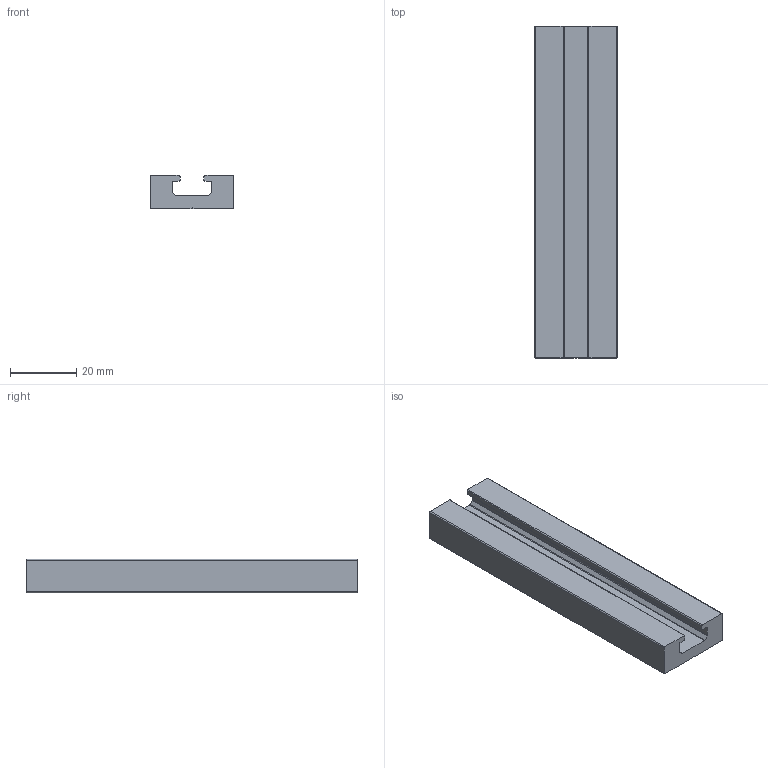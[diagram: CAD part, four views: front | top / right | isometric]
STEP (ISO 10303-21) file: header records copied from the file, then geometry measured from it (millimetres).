
FILE_DESCRIPTION(('STEP AP214'),'1');
FILE_NAME('BB25-.stp','2016-10-18T10:38:10',(' '),(' '),'Spatial InterOp 3D',' ',' ');
FILE_SCHEMA(('automotive_design'));
Length unit declared in the file: millimetre
Products named in the file (1): BB25-
Bounding box: 25 x 100 x 10 mm (x, y, z)
Volume: 18548.2 mm3; surface area: 9321.3 mm2
Topology: 1 solids, 1 shells, 33 faces, 93 edges, 62 vertices
Faces by surface type: plane 19, cylinder 14
Entity records: 1355 total; most frequent: CARTESIAN_POINT 189, DIRECTION 189, ORIENTED_EDGE 186, EDGE_CURVE 93, LINE 65, VECTOR 65, AXIS2_PLACEMENT_3D 62, VERTEX_POINT 62
